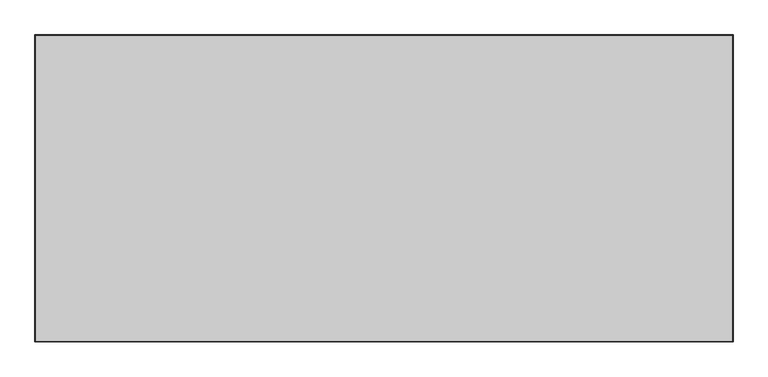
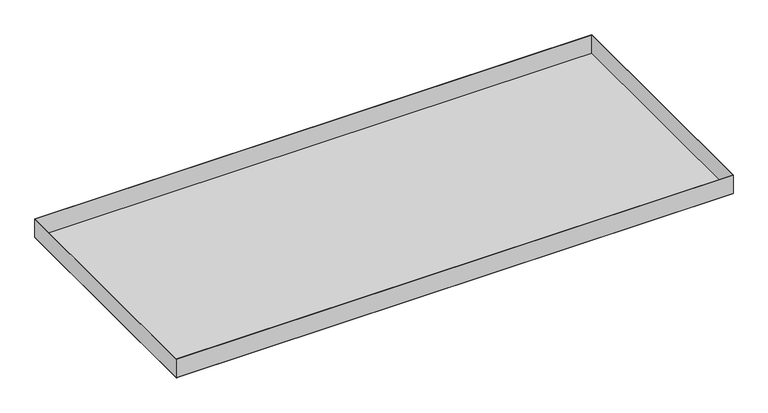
"""IFC4 building model written with IfcOpenShell, lengths in millimetres: proxy geometry, durlum_S-OM-63 : durlum_S-OM-63_panel_wall_width_cut."""

from ifc_helpers import new_model, si_unit, frame, origin, origin_with_axes, place, context, project, spatial, polyline, outline, extrude, source, transform, mapped, element, save


def generic_models_ebd4e5d5(model_context):
    return source(origin(), model_context, "Body", "SweptSolid", [
        extrude(outline(polyline([(567.45, 249.5), (567.45, -249.5), (-567.45, -249.5), (-567.45, 249.5), (567.45, 249.5)]), holes=[polyline([(566.85, 248.9), (-566.85, 248.9), (-566.85, -248.9), (566.85, -248.9), (566.85, 248.9)])]), frame((0.0, 0.0, 0.6), z_axis=(0.0, 0.0, 1.0), x_axis=(1.0, 0.0, 0.0)), (0.0, 0.0, 1.0), 39.4),
        extrude(outline(polyline([(566.45, 248.5), (566.45, -248.5), (-566.45, -248.5), (-566.45, 248.5), (566.45, 248.5)])), frame((0.0, 0.0, 0.6), z_axis=(0.0, 0.0, 1.0), x_axis=(1.0, 0.0, 0.0)), (0.0, 0.0, 1.0), 0.6),
        extrude(outline(polyline([(567.45, 249.5), (567.45, -249.5), (-567.45, -249.5), (-567.45, 249.5), (567.45, 249.5)]), holes=[polyline([(566.45, 248.5), (-566.45, 248.5), (-566.45, -248.5), (566.45, -248.5), (566.45, 248.5)])]), origin_with_axes(), (0.0, 0.0, 1.0), 0.6),
        extrude(outline(polyline([(566.45, 248.5), (566.45, -248.5), (-566.45, -248.5), (-566.45, 248.5), (566.45, 248.5)])), origin_with_axes(), (0.0, 0.0, 1.0), 0.6),
    ])


if __name__ == "__main__":
    model = new_model("IFC4")
    model_context = context("Model", 3, world=origin())
    ifc_project = project(units=[si_unit("LENGTHUNIT", "METRE", prefix="MILLI")], contexts=[model_context])
    site = spatial("IfcSite", under=ifc_project)
    building = spatial("IfcBuilding", under=site)
    placement = place(None, origin())
    generic_models_shape = generic_models_ebd4e5d5(model_context)
    element("IfcBuildingElementProxy", 1, Name="durlum_S-OM-63 : durlum_S-OM-63_panel_wall_width_cut", ObjectType="durlum_S-OM-63 : durlum_S-OM-63_panel_wall_width_cut", at=placement, inside=building, context=model_context, shape_type="MappedRepresentation", body=[
        mapped(generic_models_shape, transform((0.0, 0.0, 0.0), x_axis=(1.0, 0.0, 0.0), y_axis=(0.0, 1.0, 0.0), z_axis=(0.0, 0.0, 1.0))),
    ])
    save(model, "model.ifc")
